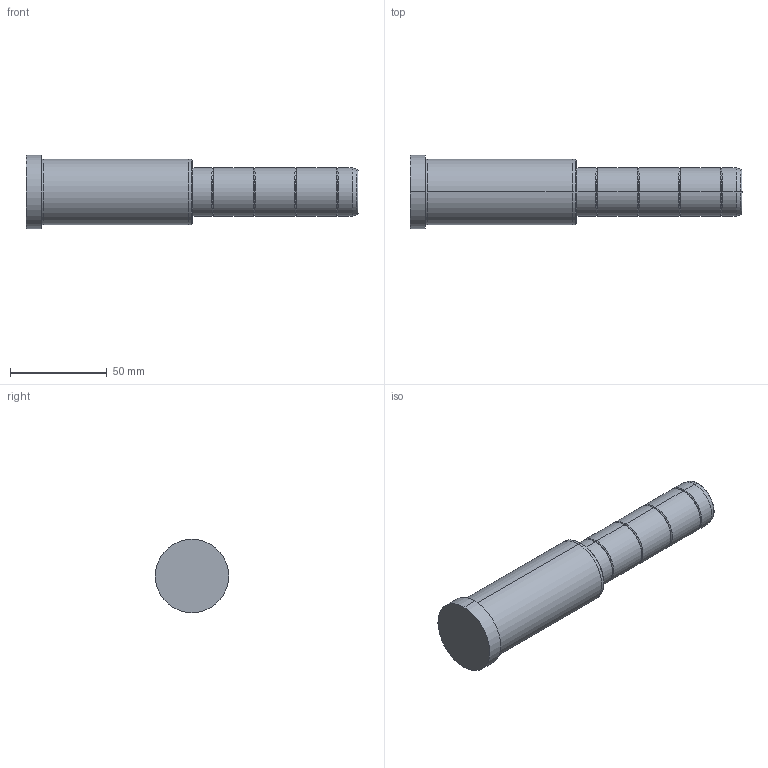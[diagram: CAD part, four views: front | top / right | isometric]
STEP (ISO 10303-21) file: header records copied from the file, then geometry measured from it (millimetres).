
FILE_DESCRIPTION( ( 'STEP AP203' ), '1' );
FILE_NAME( 'C:/Projects/D02 - 25x86x86.step', '2002-12-31T22:19:02', ( ' ' ), ( ' ' ), 'XStep 1.0', ' ', ' ' );
FILE_SCHEMA( ( 'CONFIG_CONTROL_DESIGN' ) );
Length unit declared in the file: metre
Products named in the file (1): 1
Bounding box: 172 x 38 x 38 mm (x, y, z)
Volume: 121954.9 mm3; surface area: 18356.9 mm2
Topology: 1 solids, 1 shells, 48 faces, 94 edges, 52 vertices
Faces by surface type: bspline 26, revolution 22
Entity records: 1523 total; most frequent: CARTESIAN_POINT 617, ORIENTED_EDGE 188, DIRECTION 150, EDGE_CURVE 94, AXIS2_PLACEMENT_3D 53, EDGE_LOOP 52, VERTEX_POINT 52, CIRCLE 52
